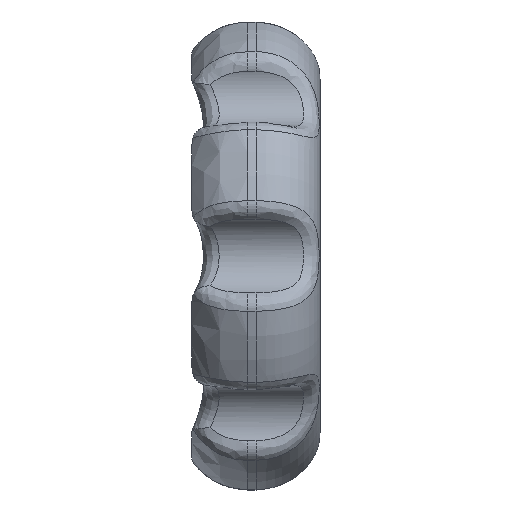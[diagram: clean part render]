
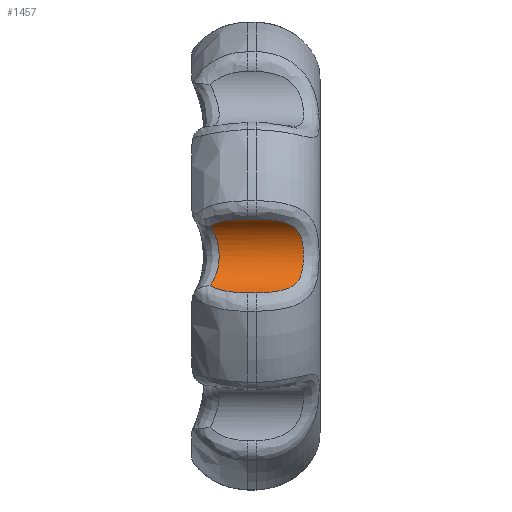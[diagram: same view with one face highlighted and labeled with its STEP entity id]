
A CAD part, front view. The second image highlights one B-rep face of the part: STEP entity #1457.
In plain terms, the highlighted cylindrical face has radius 2.5 mm (diameter 5 mm), a partial arc.
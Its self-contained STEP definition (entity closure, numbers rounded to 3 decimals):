
#197=FACE_OUTER_BOUND('',#285,.T.);
#285=EDGE_LOOP('',(#1287,#1288,#1289,#1290,#1291,#1292));
#414=B_SPLINE_CURVE_WITH_KNOTS('',3,(#5758,#5759,#5760,#5761,#5762,#5763,
#5764,#5765,#5766,#5767,#5768,#5769,#5770,#5771,#5772,#5773,#5774,#5775,
#5776,#5777,#5778,#5779,#5780,#5781,#5782,#5783,#5784,#5785,#5786,#5787,
#5788,#5789,#5790,#5791,#5792,#5793,#5794,#5795,#5796,#5797,#5798,#5799,
#5800,#5801,#5802,#5803),.UNSPECIFIED.,.F.,.F.,(4,3,3,3,3,3,3,3,3,3,3,3,
3,3,3,4),(-2.952,-2.869,-2.848,-2.809,
-2.756,-2.711,-2.707,-2.679,
-2.665,-2.63,-2.596,-2.538,
-2.503,-2.474,-2.413,-2.359),
 .UNSPECIFIED.);
#416=B_SPLINE_CURVE_WITH_KNOTS('',3,(#5874,#5875,#5876,#5877,#5878),
 .UNSPECIFIED.,.F.,.F.,(4,1,4),(-0.327,-0.148,-0.055),
 .UNSPECIFIED.);
#417=B_SPLINE_CURVE_WITH_KNOTS('',3,(#5960,#5961,#5962,#5963,#5964,#5965,
#5966,#5967,#5968,#5969,#5970,#5971,#5972,#5973,#5974),.UNSPECIFIED.,.F.,
 .F.,(4,1,1,1,1,1,1,1,1,1,1,1,4),(-1.146,-0.982,
-0.818,-0.798,-0.737,-0.655,
-0.573,-0.491,-0.327,-0.246,
-0.164,-0.123,0.),
 .UNSPECIFIED.);
#418=B_SPLINE_CURVE_WITH_KNOTS('',3,(#6004,#6005,#6006,#6007,#6008),
 .UNSPECIFIED.,.F.,.F.,(4,1,4),(-0.272,-0.135,0.),
 .UNSPECIFIED.);
#464=LINE('',#5882,#505);
#465=LINE('',#5978,#506);
#505=VECTOR('',#1798,10.);
#506=VECTOR('',#1805,10.);
#642=VERTEX_POINT('',#5713);
#643=VERTEX_POINT('',#5757);
#644=VERTEX_POINT('',#5872);
#645=VERTEX_POINT('',#5880);
#646=VERTEX_POINT('',#5958);
#647=VERTEX_POINT('',#5976);
#859=EDGE_CURVE('',#642,#643,#414,.T.);
#862=EDGE_CURVE('',#644,#642,#416,.T.);
#864=EDGE_CURVE('',#645,#644,#464,.T.);
#866=EDGE_CURVE('',#646,#645,#417,.T.);
#868=EDGE_CURVE('',#647,#646,#465,.T.);
#869=EDGE_CURVE('',#643,#647,#418,.T.);
#1287=ORIENTED_EDGE('',*,*,#859,.F.);
#1288=ORIENTED_EDGE('',*,*,#862,.F.);
#1289=ORIENTED_EDGE('',*,*,#864,.F.);
#1290=ORIENTED_EDGE('',*,*,#866,.F.);
#1291=ORIENTED_EDGE('',*,*,#868,.F.);
#1292=ORIENTED_EDGE('',*,*,#869,.F.);
#1372=CYLINDRICAL_SURFACE('',#1571,2.5);
#1457=ADVANCED_FACE('',(#197),#1372,.F.);
#1571=AXIS2_PLACEMENT_3D('',#6009,#1806,#1807);
#1798=DIRECTION('',(-1.,0.,0.));
#1805=DIRECTION('',(1.,0.,0.));
#1806=DIRECTION('center_axis',(1.,0.,0.));
#1807=DIRECTION('ref_axis',(0.,1.,0.));
#5713=CARTESIAN_POINT('',(-51.865,-13.308,2.16));
#5757=CARTESIAN_POINT('',(-51.865,-13.308,5.84));
#5758=CARTESIAN_POINT('Ctrl Pts',(-51.865,-13.308,2.16));
#5759=CARTESIAN_POINT('Ctrl Pts',(-51.771,-13.172,2.286));
#5760=CARTESIAN_POINT('Ctrl Pts',(-51.685,-13.048,2.428));
#5761=CARTESIAN_POINT('Ctrl Pts',(-51.611,-12.941,2.584));
#5762=CARTESIAN_POINT('Ctrl Pts',(-51.591,-12.912,2.625));
#5763=CARTESIAN_POINT('Ctrl Pts',(-51.572,-12.885,2.667));
#5764=CARTESIAN_POINT('Ctrl Pts',(-51.554,-12.859,2.71));
#5765=CARTESIAN_POINT('Ctrl Pts',(-51.522,-12.813,2.787));
#5766=CARTESIAN_POINT('Ctrl Pts',(-51.493,-12.77,2.866));
#5767=CARTESIAN_POINT('Ctrl Pts',(-51.466,-12.732,2.948));
#5768=CARTESIAN_POINT('Ctrl Pts',(-51.43,-12.68,3.06));
#5769=CARTESIAN_POINT('Ctrl Pts',(-51.399,-12.636,3.177));
#5770=CARTESIAN_POINT('Ctrl Pts',(-51.375,-12.6,3.297));
#5771=CARTESIAN_POINT('Ctrl Pts',(-51.354,-12.571,3.398));
#5772=CARTESIAN_POINT('Ctrl Pts',(-51.338,-12.547,3.501));
#5773=CARTESIAN_POINT('Ctrl Pts',(-51.326,-12.53,3.606));
#5774=CARTESIAN_POINT('Ctrl Pts',(-51.325,-12.529,3.616));
#5775=CARTESIAN_POINT('Ctrl Pts',(-51.324,-12.527,3.627));
#5776=CARTESIAN_POINT('Ctrl Pts',(-51.323,-12.526,3.637));
#5777=CARTESIAN_POINT('Ctrl Pts',(-51.316,-12.516,3.703));
#5778=CARTESIAN_POINT('Ctrl Pts',(-51.311,-12.509,3.77));
#5779=CARTESIAN_POINT('Ctrl Pts',(-51.308,-12.505,3.837));
#5780=CARTESIAN_POINT('Ctrl Pts',(-51.306,-12.503,3.869));
#5781=CARTESIAN_POINT('Ctrl Pts',(-51.305,-12.502,3.901));
#5782=CARTESIAN_POINT('Ctrl Pts',(-51.305,-12.501,3.934));
#5783=CARTESIAN_POINT('Ctrl Pts',(-51.304,-12.499,4.017));
#5784=CARTESIAN_POINT('Ctrl Pts',(-51.305,-12.501,4.101));
#5785=CARTESIAN_POINT('Ctrl Pts',(-51.31,-12.508,4.183));
#5786=CARTESIAN_POINT('Ctrl Pts',(-51.314,-12.514,4.263));
#5787=CARTESIAN_POINT('Ctrl Pts',(-51.321,-12.524,4.342));
#5788=CARTESIAN_POINT('Ctrl Pts',(-51.33,-12.537,4.421));
#5789=CARTESIAN_POINT('Ctrl Pts',(-51.346,-12.56,4.558));
#5790=CARTESIAN_POINT('Ctrl Pts',(-51.37,-12.594,4.692));
#5791=CARTESIAN_POINT('Ctrl Pts',(-51.402,-12.639,4.823));
#5792=CARTESIAN_POINT('Ctrl Pts',(-51.42,-12.666,4.901));
#5793=CARTESIAN_POINT('Ctrl Pts',(-51.442,-12.697,4.977));
#5794=CARTESIAN_POINT('Ctrl Pts',(-51.466,-12.731,5.052));
#5795=CARTESIAN_POINT('Ctrl Pts',(-51.485,-12.759,5.113));
#5796=CARTESIAN_POINT('Ctrl Pts',(-51.507,-12.79,5.173));
#5797=CARTESIAN_POINT('Ctrl Pts',(-51.53,-12.823,5.231));
#5798=CARTESIAN_POINT('Ctrl Pts',(-51.578,-12.892,5.353));
#5799=CARTESIAN_POINT('Ctrl Pts',(-51.633,-12.971,5.469));
#5800=CARTESIAN_POINT('Ctrl Pts',(-51.693,-13.059,5.576));
#5801=CARTESIAN_POINT('Ctrl Pts',(-51.746,-13.136,5.671));
#5802=CARTESIAN_POINT('Ctrl Pts',(-51.804,-13.22,5.759));
#5803=CARTESIAN_POINT('Ctrl Pts',(-51.865,-13.308,5.84));
#5872=CARTESIAN_POINT('',(-49.536,-14.018,1.701));
#5874=CARTESIAN_POINT('Ctrl Pts',(-49.536,-14.019,1.7));
#5875=CARTESIAN_POINT('Ctrl Pts',(-50.135,-14.019,1.7));
#5876=CARTESIAN_POINT('Ctrl Pts',(-51.044,-13.826,1.766));
#5877=CARTESIAN_POINT('Ctrl Pts',(-51.688,-13.441,2.039));
#5878=CARTESIAN_POINT('Ctrl Pts',(-51.865,-13.308,2.16));
#5880=CARTESIAN_POINT('',(-49.,-14.018,1.701));
#5882=CARTESIAN_POINT('',(-57.5,-14.018,1.701));
#5958=CARTESIAN_POINT('',(-49.,-14.018,6.299));
#5960=CARTESIAN_POINT('Ctrl Pts',(-49.,-14.018,6.299));
#5961=CARTESIAN_POINT('Ctrl Pts',(-48.454,-14.018,6.299));
#5962=CARTESIAN_POINT('Ctrl Pts',(-47.357,-13.81,6.23));
#5963=CARTESIAN_POINT('Ctrl Pts',(-46.573,-13.265,5.843));
#5964=CARTESIAN_POINT('Ctrl Pts',(-46.271,-12.93,5.413));
#5965=CARTESIAN_POINT('Ctrl Pts',(-46.132,-12.731,5.09));
#5966=CARTESIAN_POINT('Ctrl Pts',(-46.054,-12.545,4.585));
#5967=CARTESIAN_POINT('Ctrl Pts',(-46.035,-12.478,4.));
#5968=CARTESIAN_POINT('Ctrl Pts',(-46.06,-12.565,3.221));
#5969=CARTESIAN_POINT('Ctrl Pts',(-46.221,-12.937,2.507));
#5970=CARTESIAN_POINT('Ctrl Pts',(-46.8,-13.429,2.039));
#5971=CARTESIAN_POINT('Ctrl Pts',(-47.321,-13.697,1.862));
#5972=CARTESIAN_POINT('Ctrl Pts',(-48.045,-13.941,1.73));
#5973=CARTESIAN_POINT('Ctrl Pts',(-48.591,-14.018,1.701));
#5974=CARTESIAN_POINT('Ctrl Pts',(-49.,-14.018,1.701));
#5976=CARTESIAN_POINT('',(-49.536,-14.018,6.299));
#5978=CARTESIAN_POINT('',(-57.5,-14.018,6.299));
#6004=CARTESIAN_POINT('Ctrl Pts',(-51.863,-13.307,5.839));
#6005=CARTESIAN_POINT('Ctrl Pts',(-51.6,-13.503,6.019));
#6006=CARTESIAN_POINT('Ctrl Pts',(-50.895,-13.88,6.25));
#6007=CARTESIAN_POINT('Ctrl Pts',(-49.985,-14.018,6.299));
#6008=CARTESIAN_POINT('Ctrl Pts',(-49.536,-14.018,6.299));
#6009=CARTESIAN_POINT('Origin',(-57.5,-15.,4.));
